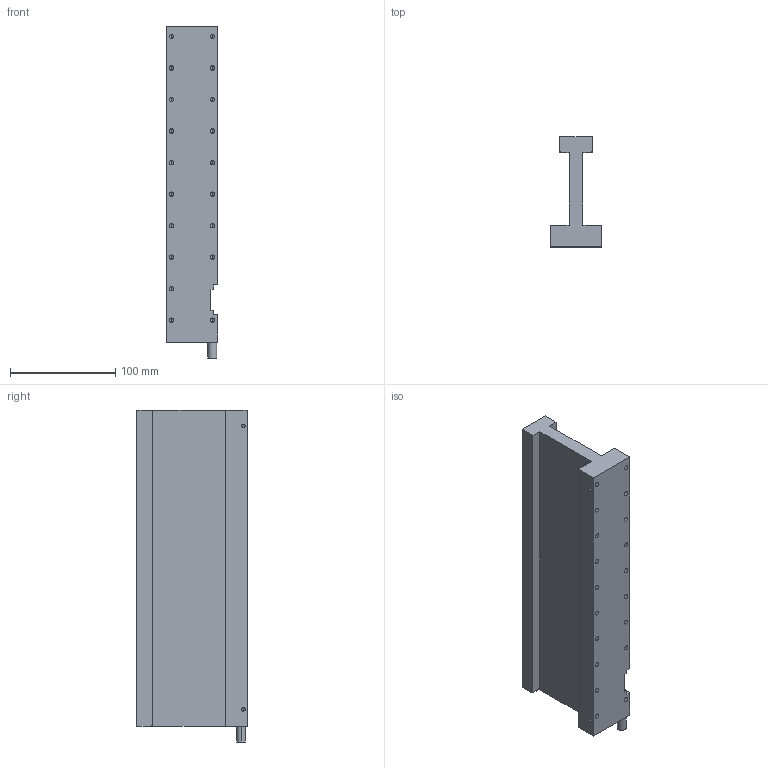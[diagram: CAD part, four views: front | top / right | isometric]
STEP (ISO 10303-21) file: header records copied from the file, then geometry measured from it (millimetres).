
FILE_DESCRIPTION (( 'STEP AP214' ), '1' );
FILE_NAME ('JKA55.STEP', '2025-09-05T08:49:36', ( '' ), ( '' ), 'SwSTEP 2.0', 'SolidWorks 2016', '' );
FILE_SCHEMA (( 'AUTOMOTIVE_DESIGN' ));
Length unit declared in the file: millimetre
Products named in the file (1): JKA55
Bounding box: 49 x 104.8 x 316 mm (x, y, z)
Volume: 708822.3 mm3; surface area: 112297 mm2
Topology: 1 solids, 1 shells, 139 faces, 359 edges, 197 vertices
Faces by surface type: cylinder 60, cone 50, plane 29
Entity records: 4461 total; most frequent: DIRECTION 699, CARTESIAN_POINT 692, ORIENTED_EDGE 618, EDGE_CURVE 309, AXIS2_PLACEMENT_3D 256, VERTEX_POINT 197, LINE 187, VECTOR 187
